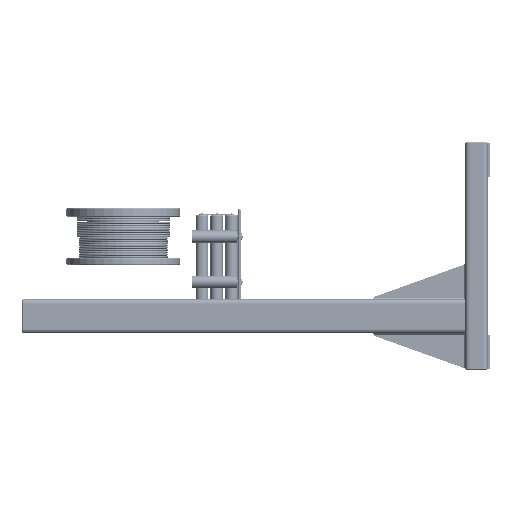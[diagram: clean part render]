
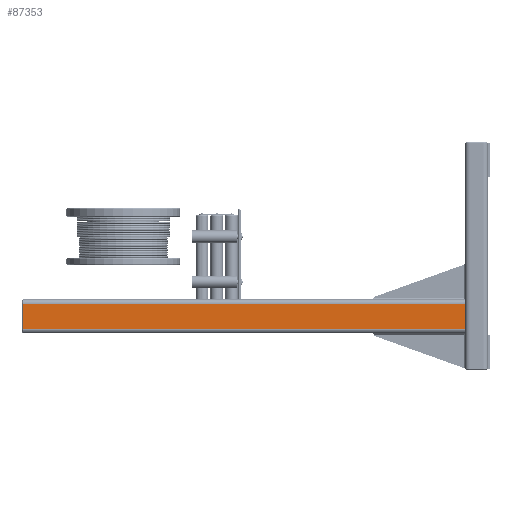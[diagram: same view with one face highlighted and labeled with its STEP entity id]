
A CAD part, left-side view. The second image highlights one B-rep face of the part: STEP entity #87353.
In plain terms, the highlighted planar face has unit normal (-1, 0, 0).
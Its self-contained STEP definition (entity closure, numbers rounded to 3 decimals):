
#260 = VERTEX_POINT ( 'NONE', #43318 ) ;
#1002 = DIRECTION ( 'NONE',  ( 0., 1., 0. ) ) ;
#3649 = CARTESIAN_POINT ( 'NONE',  ( -1875., 60., -320. ) ) ;
#5266 = DIRECTION ( 'NONE',  ( 0., 0., 1. ) ) ;
#10299 = LINE ( 'NONE', #3649, #16751 ) ;
#16268 = DIRECTION ( 'NONE',  ( 0., 0., 1. ) ) ;
#16751 = VECTOR ( 'NONE', #23571, 1000. ) ;
#23571 = DIRECTION ( 'NONE',  ( 0., 1., 0. ) ) ;
#25699 = EDGE_CURVE ( 'NONE', #26974, #82176, #34611, .T. ) ;
#26974 = VERTEX_POINT ( 'NONE', #54929 ) ;
#27238 = EDGE_CURVE ( 'NONE', #28021, #26974, #31820, .T. ) ;
#27562 = CARTESIAN_POINT ( 'NONE',  ( -1875., 60., -210. ) ) ;
#28021 = VERTEX_POINT ( 'NONE', #34985 ) ;
#28799 = ORIENTED_EDGE ( 'NONE', *, *, #34461, .F. ) ;
#31268 = CARTESIAN_POINT ( 'NONE',  ( -1875., 2050., -320. ) ) ;
#31820 = LINE ( 'NONE', #65925, #82208 ) ;
#34461 = EDGE_CURVE ( 'NONE', #260, #82176, #64486, .T. ) ;
#34611 = LINE ( 'NONE', #27562, #53490 ) ;
#34985 = CARTESIAN_POINT ( 'NONE',  ( -1875., 110., -320. ) ) ;
#40520 = PLANE ( 'NONE',  #50847 ) ;
#43318 = CARTESIAN_POINT ( 'NONE',  ( -1875., 2050., -320. ) ) ;
#45283 = EDGE_CURVE ( 'NONE', #28021, #260, #10299, .T. ) ;
#50684 = EDGE_LOOP ( 'NONE', ( #28799, #62093, #66411, #63930 ) ) ;
#50847 = AXIS2_PLACEMENT_3D ( 'NONE', #67597, #68043, #87605 ) ;
#53109 = CARTESIAN_POINT ( 'NONE',  ( -1875., 2050., -210. ) ) ;
#53490 = VECTOR ( 'NONE', #1002, 1000. ) ;
#54929 = CARTESIAN_POINT ( 'NONE',  ( -1875., 110., -210. ) ) ;
#58856 = FACE_OUTER_BOUND ( 'NONE', #50684, .T. ) ;
#62093 = ORIENTED_EDGE ( 'NONE', *, *, #45283, .F. ) ;
#63930 = ORIENTED_EDGE ( 'NONE', *, *, #25699, .T. ) ;
#64486 = LINE ( 'NONE', #31268, #68952 ) ;
#65925 = CARTESIAN_POINT ( 'NONE',  ( -1875., 110., -320. ) ) ;
#66411 = ORIENTED_EDGE ( 'NONE', *, *, #27238, .T. ) ;
#67597 = CARTESIAN_POINT ( 'NONE',  ( -1875., 60., -320. ) ) ;
#68043 = DIRECTION ( 'NONE',  ( 1., 0., 0. ) ) ;
#68952 = VECTOR ( 'NONE', #16268, 1000. ) ;
#82176 = VERTEX_POINT ( 'NONE', #53109 ) ;
#82208 = VECTOR ( 'NONE', #5266, 1000. ) ;
#87353 = ADVANCED_FACE ( 'NONE', ( #58856 ), #40520, .F. ) ;
#87605 = DIRECTION ( 'NONE',  ( 0., 0., -1. ) ) ;
